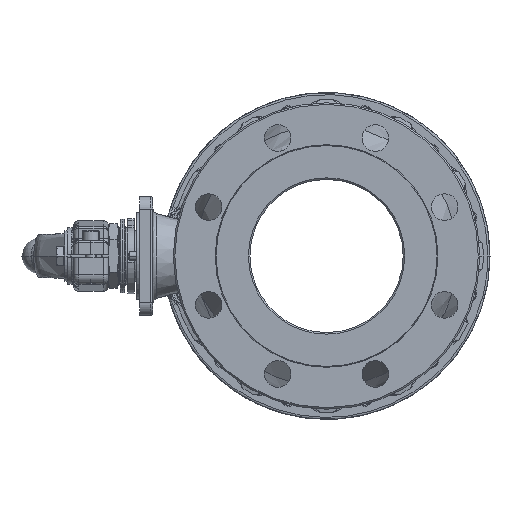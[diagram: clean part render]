
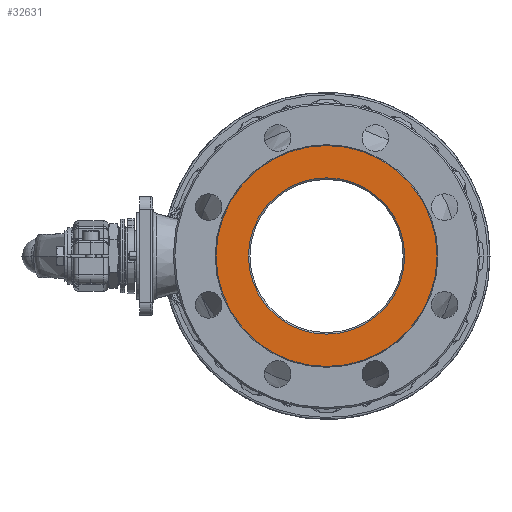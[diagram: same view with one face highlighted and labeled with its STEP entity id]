
A CAD part, left-side view. The second image highlights one B-rep face of the part: STEP entity #32631.
In plain terms, the highlighted planar face has unit normal (-1, 0, 0) as drawn and (0, -1, 0) by its records, which use the part's own axes.
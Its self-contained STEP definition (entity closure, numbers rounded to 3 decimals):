
#500 = EDGE_CURVE ( 'NONE', #12984, #18687, #45339, .T. ) ;
#1256 = AXIS2_PLACEMENT_3D ( 'NONE', #54569, #26844, #59958 ) ;
#2987 = CARTESIAN_POINT ( 'NONE',  ( -76.5, -96.5, -13. ) ) ;
#3669 = CARTESIAN_POINT ( 'NONE',  ( 0., -96.5, -13. ) ) ;
#9475 = CARTESIAN_POINT ( 'NONE',  ( 0., -96.5, -121.196 ) ) ;
#9873 = DIRECTION ( 'NONE',  ( 0., 0., -1. ) ) ;
#10247 = EDGE_LOOP ( 'NONE', ( #60062, #68784 ) ) ;
#10644 = DIRECTION ( 'NONE',  ( 0., -1., 0. ) ) ;
#12162 = AXIS2_PLACEMENT_3D ( 'NONE', #3669, #14060, #52619 ) ;
#12984 = VERTEX_POINT ( 'NONE', #2987 ) ;
#13333 = VERTEX_POINT ( 'NONE', #9475 ) ;
#14060 = DIRECTION ( 'NONE',  ( 0., -1., 0. ) ) ;
#16115 = CARTESIAN_POINT ( 'NONE',  ( 0., -96.5, -13. ) ) ;
#18687 = VERTEX_POINT ( 'NONE', #63415 ) ;
#22903 = VERTEX_POINT ( 'NONE', #47438 ) ;
#25798 = AXIS2_PLACEMENT_3D ( 'NONE', #37403, #10644, #49219 ) ;
#26196 = PLANE ( 'NONE',  #47559 ) ;
#26844 = DIRECTION ( 'NONE',  ( 0., -1., 0. ) ) ;
#28293 = ORIENTED_EDGE ( 'NONE', *, *, #37757, .F. ) ;
#31643 = CIRCLE ( 'NONE', #12162, 108.196 ) ;
#32631 = ADVANCED_FACE ( 'NONE', ( #39746, #62223 ), #26196, .T. ) ;
#37403 = CARTESIAN_POINT ( 'NONE',  ( 0., -96.5, -13. ) ) ;
#37757 = EDGE_CURVE ( 'NONE', #18687, #12984, #49944, .T. ) ;
#38285 = CIRCLE ( 'NONE', #25798, 108.196 ) ;
#38454 = AXIS2_PLACEMENT_3D ( 'NONE', #16115, #60245, #71101 ) ;
#39000 = EDGE_CURVE ( 'NONE', #22903, #13333, #31643, .T. ) ;
#39746 = FACE_BOUND ( 'NONE', #50593, .T. ) ;
#43407 = DIRECTION ( 'NONE',  ( 0., -1., 0. ) ) ;
#45339 = CIRCLE ( 'NONE', #1256, 76.5 ) ;
#47438 = CARTESIAN_POINT ( 'NONE',  ( 0., -96.5, 95.196 ) ) ;
#47559 = AXIS2_PLACEMENT_3D ( 'NONE', #48438, #43407, #9873 ) ;
#48438 = CARTESIAN_POINT ( 'NONE',  ( 0., -96.5, -67.098 ) ) ;
#48901 = ORIENTED_EDGE ( 'NONE', *, *, #500, .F. ) ;
#49219 = DIRECTION ( 'NONE',  ( 0., 0., 1. ) ) ;
#49944 = CIRCLE ( 'NONE', #38454, 76.5 ) ;
#50593 = EDGE_LOOP ( 'NONE', ( #28293, #48901 ) ) ;
#52619 = DIRECTION ( 'NONE',  ( 0., 0., 1. ) ) ;
#54569 = CARTESIAN_POINT ( 'NONE',  ( 0., -96.5, -13. ) ) ;
#54919 = EDGE_CURVE ( 'NONE', #13333, #22903, #38285, .T. ) ;
#59958 = DIRECTION ( 'NONE',  ( 1., 0., 0. ) ) ;
#60062 = ORIENTED_EDGE ( 'NONE', *, *, #39000, .T. ) ;
#60245 = DIRECTION ( 'NONE',  ( 0., -1., 0. ) ) ;
#62223 = FACE_OUTER_BOUND ( 'NONE', #10247, .T. ) ;
#63415 = CARTESIAN_POINT ( 'NONE',  ( 76.5, -96.5, -13. ) ) ;
#68784 = ORIENTED_EDGE ( 'NONE', *, *, #54919, .T. ) ;
#71101 = DIRECTION ( 'NONE',  ( 1., 0., 0. ) ) ;
